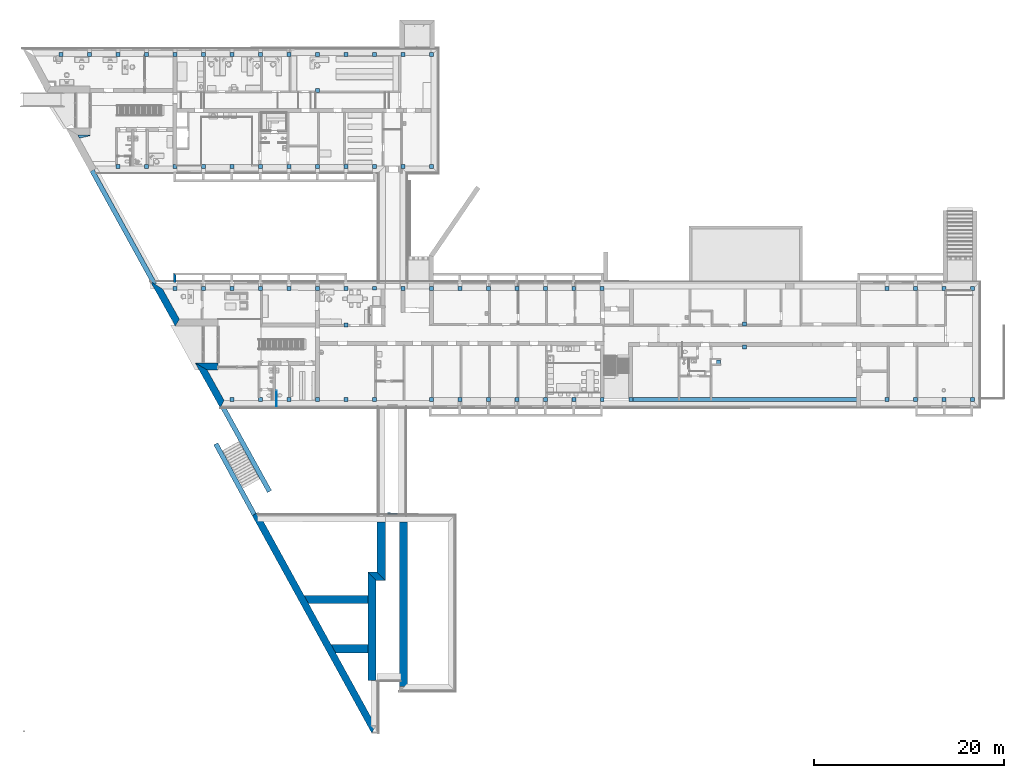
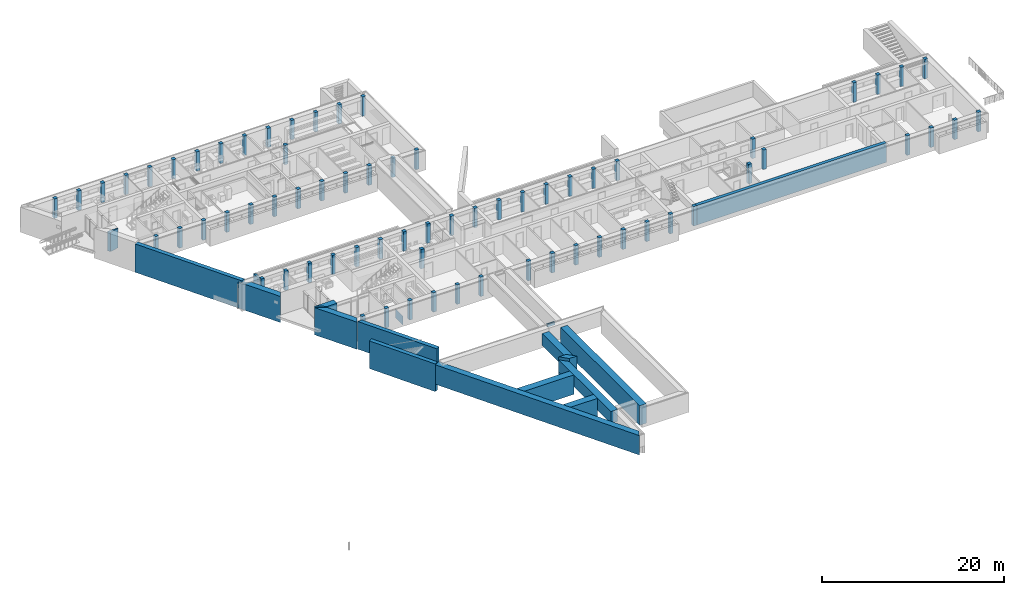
# One storey, part 1 of 127: 74 members, 13 walls.
"""IFC2X3 building model written with IfcOpenShell, lengths in millimetres."""

from ifc_helpers import new_model, entity, si_unit, converted_unit, derived_unit, money_unit, direction, frame, origin_with_axes, origin_2d_with_axis, place, context, subcontext, project, spatial, polyline, rectangle, outline, extrude, material, layer, layer_set, layer_usage, type_object, element, save


model = new_model("IFC2X3")

# Units and contexts
model_context = context("Model", 3, precision=1e-05, world=origin_with_axes(), true_north=direction((0.0, 1.0)))
body_context = subcontext(model_context, "Body", "Model", "MODEL_VIEW")
ifc_project = project(units=[si_unit("LENGTHUNIT", "METRE", prefix="MILLI"), si_unit("AREAUNIT", "SQUARE_METRE"), si_unit("VOLUMEUNIT", "CUBIC_METRE"), converted_unit("PLANEANGLEUNIT", "DEGREE", entity("IfcPlaneAngleMeasure", 0.0174532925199), si_unit("PLANEANGLEUNIT", "RADIAN"), dimensions=[0, 0, 0, 0, 0, 0, 0]), si_unit("SOLIDANGLEUNIT", "STERADIAN"), money_unit("EUR"), converted_unit("TIMEUNIT", "Year", entity("IfcTimeMeasure", 31556926.0), si_unit("TIMEUNIT", "SECOND"), dimensions=[0, 0, 1, 0, 0, 0, 0]), si_unit("MASSUNIT", "GRAM", prefix="KILO"), si_unit("THERMODYNAMICTEMPERATUREUNIT", "DEGREE_CELSIUS"), si_unit("LUMINOUSINTENSITYUNIT", "LUMEN"), si_unit("ENERGYUNIT", "JOULE", prefix="MEGA"), derived_unit("THERMALCONDUCTANCEUNIT", [(si_unit("POWERUNIT", "WATT"), 1), (si_unit("LENGTHUNIT", "METRE"), -1), (si_unit("THERMODYNAMICTEMPERATUREUNIT", "KELVIN"), -1)]), derived_unit("SPECIFICHEATCAPACITYUNIT", [(si_unit("ENERGYUNIT", "JOULE"), 1), (si_unit("MASSUNIT", "GRAM", prefix="KILO"), -1), (si_unit("THERMODYNAMICTEMPERATUREUNIT", "KELVIN"), -1)]), derived_unit("MASSDENSITYUNIT", [(si_unit("MASSUNIT", "GRAM", prefix="KILO"), 1), (si_unit("VOLUMEUNIT", "CUBIC_METRE"), -1)])], contexts=[model_context])

# Site, building, storey
site_placement = place(None, origin_with_axes())
site = spatial("IfcSite", under=ifc_project, at=site_placement, Name="Site", CompositionType="ELEMENT")
building_placement = place(site_placement, origin_with_axes())
building = spatial("IfcBuilding", under=site, at=building_placement, Name="Building", CompositionType="ELEMENT")
storey_placement = place(building_placement, origin_with_axes())
storey = spatial("IfcBuildingStorey", under=building, at=storey_placement, Name="1 KORRUS", CompositionType="ELEMENT", Elevation=0.0)

# Members
ifc_material_1 = material(Name="Kivi - Ol.Olev Konstruktsioon")
member_type_1 = type_object("IfcMemberType", Name="SW - 020", PredefinedType="NOTDEFINED")
member_1_placement = place(storey_placement, frame((5715.01134095, 62850.2567601, 0.0), z_axis=(0.0, 0.0, 1.0), x_axis=(0.45620226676, -0.889876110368, 0.0)))
element("IfcMember", 1, at=member_1_placement, inside=storey, type_object=member_type_1, material=ifc_material_1, Name="Kivi - Ol.Olev Konstruktsioon", context=body_context, shape_type="SweptSolid", body=[
    extrude(outline(polyline([(0.0, 0.0), (399.238557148, -4.54747350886e-10), (671.77523464, 1106.1477904), (588.163772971, 1149.01189013), (0.0, 0.0)])), origin_with_axes(), (0.0, 0.0, 1.0), 2600.0),
])
member_type_2 = type_object("IfcMemberType", Name="ol.ol postid", PredefinedType="NOTDEFINED")
for number, where, z_axis, x_axis in (
    (2, (24944.3293372, 46682.325893, 0.0), (0.0, 0.0, 1.0), (1.0, 0.0, 0.0)),
    (3, (99947.3527847, 46681.7424563, 0.0), (0.0, 0.0, 1.0), (1.0, 0.0, 0.0)),
    (4, (57944.3292711, 46681.4699647, 0.0), (0.0, 0.0, 1.0), (1.0, 0.0, 0.0)),
    (5, (60944.3292711, 46681.4699647, 0.0), (0.0, 0.0, 1.0), (1.0, 0.0, 0.0)),
    (6, (54944.3292711, 46681.4699647, 0.0), (0.0, 0.0, 1.0), (1.0, 0.0, 0.0)),
    (7, (51944.3292711, 46681.4699647, 0.0), (0.0, 0.0, 1.0), (1.0, 0.0, 0.0)),
    (8, (57945.1743177, 34971.6242698, 0.0), (0.0, 0.0, 1.0), (1.0, 0.0, 0.0)),
    (9, (54945.1743177, 34971.6242698, 0.0), (0.0, 0.0, 1.0), (1.0, 0.0, 0.0)),
    (10, (63947.3527847, 34971.6242698, 0.0), (0.0, 0.0, 1.0), (1.0, 0.0, 0.0)),
    (11, (90947.3527847, 34971.6242698, 0.0), (0.0, 0.0, 1.0), (1.0, 0.0, 0.0)),
    (12, (48945.1743177, 34971.6242698, 0.0), (0.0, 0.0, 1.0), (1.0, 0.0, 0.0)),
):
    element("IfcMember", number, at=place(storey_placement, frame(where, z_axis=z_axis, x_axis=x_axis)), inside=storey, type_object=member_type_2, material=ifc_material_1, Name="Kivi - Ol.Olev Konstruktsioon", context=body_context, shape_type="SweptSolid", body=[
        extrude(rectangle(XDim=420.0, YDim=420.0, at=origin_2d_with_axis()), origin_with_axes(), (0.0, 0.0, 1.0), 2600.0),
    ])
member_2_placement = place(storey_placement, frame((76157.3527847, 34971.6242698, 0.0), z_axis=(0.0, 0.0, 1.0), x_axis=(1.0, 0.0, 0.0)))
element("IfcMember", 13, at=member_2_placement, inside=storey, type_object=member_type_2, material=ifc_material_1, Name="Kivi - Ol.Olev Konstruktsioon", context=body_context, shape_type="SweptSolid", body=[
    extrude(rectangle(XDim=24000.0, YDim=420.0, at=origin_2d_with_axis()), origin_with_axes(), (0.0, 0.0, 1.0), 2600.0),
])
for number, where, z_axis, x_axis in (
    (14, (75947.3527847, 42916.0014634, 0.0), (0.0, 0.0, 1.0), (1.0, 0.0, 0.0)),
    (15, (42945.1743177, 34971.6242698, 0.0), (0.0, 0.0, 1.0), (1.0, 0.0, 0.0)),
    (16, (45945.1743177, 34971.6242698, 0.0), (0.0, 0.0, 1.0), (1.0, 0.0, 0.0)),
    (17, (96947.3527847, 46681.7424563, 0.0), (0.0, 0.0, 1.0), (1.0, 0.0, 0.0)),
    (18, (36944.3010178, 46699.9747517, 0.0), (0.0, 0.0, 1.0), (1.0, 0.0, 0.0)),
    (19, (60945.1743177, 34971.6242698, 0.0), (0.0, 0.0, 1.0), (1.0, 0.0, 0.0)),
    (20, (30943.8006358, 46690.3463291, 0.0), (0.0, 0.0, 1.0), (1.0, 0.0, 0.0)),
    (21, (93947.3527847, 34971.6242698, 0.0), (0.0, 0.0, 1.0), (1.0, 0.0, 0.0)),
    (22, (75947.3527847, 40514.0649257, 0.0), (0.0, 0.0, 1.0), (1.0, 0.0, 0.0)),
    (23, (27944.3293372, 46685.5347581, 0.0), (0.0, 0.0, 1.0), (1.0, 0.0, 0.0)),
    (24, (21944.3293372, 46682.325893, 0.0), (0.0, 0.0, 1.0), (1.0, 0.0, 0.0)),
    (25, (15944.3344057, 46682.9676628, 0.0), (0.0, 0.0, 1.0), (1.0, 0.0, 0.0)),
    (26, (18944.3293372, 46682.325893, 0.0), (0.0, 0.0, 1.0), (1.0, 0.0, 0.0)),
    (27, (42944.3292711, 46681.4699647, 0.0), (0.0, 0.0, 1.0), (1.0, 0.0, 0.0)),
    (28, (12944.6418932, 59525.1231357, 0.0), (0.0, 0.0, 1.0), (1.0, 0.0, 0.0)),
    (29, (9944.30400259, 59525.1231357, 0.0), (0.0, 0.0, 1.0), (1.0, 0.0, 0.0)),
    (30, (18944.3034197, 59526.6941374, 0.0), (0.0, 0.0, 1.0), (1.0, 0.0, 0.0)),
    (31, (24945.1743177, 34971.6242698, 0.0), (0.0, 0.0, 1.0), (1.0, 0.0, 0.0)),
    (32, (3950.5667174, 71297.439843, 0.0), (0.0, 0.0, 1.0), (1.0, 0.0, 0.0)),
    (33, (90947.3527847, 46681.7424563, 0.0), (0.0, 0.0, 1.0), (1.0, 0.0, 0.0)),
    (34, (33943.7929122, 42812.8754334, 0.0), (0.0, 0.0, 1.0), (1.0, 0.0, 0.0)),
    (35, (96947.3527847, 34971.6242698, 0.0), (0.0, 0.0, 1.0), (1.0, 0.0, 0.0)),
    (36, (33945.1743177, 34971.6242698, 0.0), (0.0, 0.0, 1.0), (1.0, 0.0, 0.0)),
    (37, (33943.7929122, 46695.1601266, 0.0), (0.0, 0.0, 1.0), (1.0, 0.0, 0.0)),
    (38, (30945.1743177, 34971.6242698, 0.0), (0.0, 0.0, 1.0), (1.0, 0.0, 0.0)),
    (39, (30950.1503027, 67524.0664165, 0.0), (0.0, 0.0, 1.0), (1.0, 0.0, 0.0)),
    (40, (99947.3527847, 34971.6242698, 0.0), (0.0, 0.0, 1.0), (1.0, 0.0, 0.0)),
    (41, (48944.3292711, 46681.4699647, 0.0), (0.0, 0.0, 1.0), (1.0, 0.0, 0.0)),
    (42, (45944.3292711, 46681.4699647, 0.0), (0.0, 0.0, 1.0), (1.0, 0.0, 0.0)),
    (43, (73187.5755855, 38941.7373943, 0.0), (0.0, 0.0, 1.0), (1.0, 0.0, 0.0)),
    (44, (93947.3527847, 46681.7424563, 0.0), (0.0, 0.0, 1.0), (1.0, 0.0, 0.0)),
    (45, (42944.3292711, 59529.3156565, 0.0), (0.0, 0.0, 1.0), (1.0, 0.0, 0.0)),
    (46, (51945.1743177, 34971.6242698, 0.0), (0.0, 0.0, 1.0), (1.0, 0.0, 0.0)),
    (47, (21945.1743177, 34971.6242698, 0.0), (0.0, 0.0, 1.0), (1.0, 0.0, 0.0)),
    (48, (42953.1732824, 71302.373319, 0.0), (0.0, 0.0, 1.0), (1.0, 0.0, 0.0)),
    (49, (39950.7614186, 71302.3733161, 0.0), (0.0, 0.0, 1.0), (1.0, 0.0, 0.0)),
    (50, (36949.9880696, 71302.3731882, 0.0), (0.0, 0.0, 1.0), (1.0, 0.0, 0.0)),
    (51, (33950.0692407, 71302.3731882, 0.0), (0.0, 0.0, 1.0), (1.0, 0.0, 0.0)),
    (52, (30950.1503027, 71302.3731882, 0.0), (0.0, 0.0, 1.0), (1.0, 0.0, 0.0)),
    (53, (27950.1478384, 71302.3731882, 0.0), (0.0, 0.0, 1.0), (1.0, 0.0, 0.0)),
    (54, (24951.646881, 71298.9448321, 0.0), (0.0, 0.0, 1.0), (1.0, 0.0, 0.0)),
    (55, (21950.5170575, 71298.2638514, 0.0), (0.0, 0.0, 1.0), (1.0, 0.0, 0.0)),
    (56, (18951.6522749, 71298.8316168, 0.0), (0.0, 0.0, 1.0), (1.0, 0.0, 0.0)),
    (57, (15951.8667269, 71298.3482713, 0.0), (0.0, 0.0, 1.0), (1.0, 0.0, 0.0)),
    (58, (9951.94827156, 71299.439721, 0.0), (0.0, 0.0, 1.0), (1.0, 0.0, 0.0)),
    (59, (6952.1108763, 71297.439843, 0.0), (0.0, 0.0, 1.0), (1.0, 0.0, 0.0)),
    (60, (27945.1743177, 34971.6242698, 0.0), (0.0, 0.0, 1.0), (1.0, 0.0, 0.0)),
    (61, (36944.3292711, 34971.6242698, 0.0), (0.0, 0.0, 1.0), (1.0, 0.0, 0.0)),
    (62, (15944.3038311, 59525.1231357, 0.0), (0.0, 0.0, 1.0), (1.0, 0.0, 0.0)),
    (63, (39944.3292711, 46662.325893, 0.0), (0.0, 0.0, 1.0), (1.0, 0.0, 0.0)),
    (64, (12951.7903616, 71296.7330816, 0.0), (0.0, 0.0, 1.0), (1.0, 0.0, 0.0)),
    (65, (39943.2475145, 59529.3156565, 0.0), (0.0, 0.0, 1.0), (1.0, 0.0, 0.0)),
    (66, (36944.3009517, 59529.3156565, 0.0), (0.0, 0.0, 1.0), (1.0, 0.0, 0.0)),
    (67, (33944.301363, 59528.9515077, 0.0), (0.0, 0.0, 1.0), (1.0, 0.0, 0.0)),
    (68, (30944.3017744, 59528.468799, 0.0), (0.0, 0.0, 1.0), (1.0, 0.0, 0.0)),
    (69, (27944.3021857, 59528.1046502, 0.0), (0.0, 0.0, 1.0), (1.0, 0.0, 0.0)),
    (70, (24944.302597, 59527.6812213, 0.0), (0.0, 0.0, 1.0), (1.0, 0.0, 0.0)),
    (71, (21944.3030084, 59528.2651392, 0.0), (0.0, 0.0, 1.0), (1.0, 0.0, 0.0)),
):
    element("IfcMember", number, at=place(storey_placement, frame(where, z_axis=z_axis, x_axis=x_axis)), inside=storey, type_object=member_type_2, material=ifc_material_1, Name="Kivi - Ol.Olev Konstruktsioon", context=body_context, shape_type="SweptSolid", body=[
        extrude(rectangle(XDim=420.0, YDim=420.0, at=origin_2d_with_axis()), origin_with_axes(), (0.0, 0.0, 1.0), 2600.0),
    ])
member_type_3 = type_object("IfcMemberType", Name="VS1", PredefinedType="NOTDEFINED")
member_3_placement = place(storey_placement, frame((20033.5222605, 30197.8708194, -1000.0), z_axis=(0.0, 0.0, 1.0), x_axis=(0.478355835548, -0.878166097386, 0.0)))
element("IfcMember", 72, at=member_3_placement, inside=storey, type_object=member_type_3, material=ifc_material_1, Name="Ol.olve tugimüür 500", context=body_context, shape_type="SweptSolid", body=[
    extrude(outline(polyline([(0.0, 0.0), (8470.73635512, -4.54747350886e-10), (8470.73635512, 500.0), (0.0, 500.0), (0.0, 0.0)])), origin_with_axes(), (0.0, 0.0, 1.0), 3702.64789872),
])
member_4_placement = place(storey_placement, frame((20672.9822092, 34257.0926367, -1000.0), z_axis=(0.0, 0.0, 1.0), x_axis=(0.483634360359, -0.875270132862, 0.0)))
element("IfcMember", 73, at=member_4_placement, inside=storey, type_object=member_type_3, material=ifc_material_1, Name="Ol.olve tugimüür 500", context=body_context, shape_type="SweptSolid", body=[
    extrude(outline(polyline([(194.218445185, 0.0), (10363.3436414, -4.54747350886e-10), (10363.3436414, 500.0), (470.451203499, 500.0), (194.218445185, 0.0)])), origin_with_axes(), (0.0, 0.0, 1.0), 3702.64789872),
])
member_5_placement = place(storey_placement, frame((6998.40276262, 58984.8998575, -1000.0), z_axis=(0.0, 0.0, 1.0), x_axis=(0.482129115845, -0.87610017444, 0.0)))
element("IfcMember", 74, at=member_5_placement, inside=storey, type_object=member_type_3, material=ifc_material_1, Name="Ol.olve tugimüür 500", context=body_context, shape_type="SweptSolid", body=[
    extrude(outline(polyline([(0.0, 0.0), (13672.5863333, 0.0), (13672.5863333, 500.0), (9.09494701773e-10, 500.0), (0.0, 0.0)])), origin_with_axes(), (0.0, 0.0, 1.0), 3797.98141007),
])

# Walls
ifc_layer_1 = layer(ifc_material_1, 860.0, ventilated="UNKNOWN")
ifc_layer_set_1 = layer_set([ifc_layer_1], Name="VUND")
ifc_layer_usage_1 = layer_usage(ifc_layer_set_1, "AXIS2", "POSITIVE", -860.0)
wall_type_1 = type_object("IfcWallType", Name="P-1", PredefinedType="NOTDEFINED")
wall_1_placement = place(storey_placement, frame((38098.3753318, 15945.4077604, 0.0), z_axis=(0.0, 0.0, 1.0), x_axis=(-0.999998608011, 0.00166852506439, 0.0)))
element("IfcWallStandardCase", 75, at=wall_1_placement, inside=storey, type_object=wall_type_1, material=ifc_layer_usage_1, Name="VUND", context=body_context, shape_type="SweptSolid", body=[
    extrude(outline(polyline([(861.436130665, -860.0), (1814.92948083, -860.0), (953.493350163, 0.0), (0.0, 0.0), (861.436130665, -860.0)])), origin_with_axes(), (0.0, 0.0, 1.0), 3000.0),
])
ifc_layer_usage_2 = layer_usage(ifc_layer_set_1, "AXIS2", "POSITIVE", 0.0)
wall_2_placement = place(storey_placement, frame((29177.7008013, 13498.4809975, 0.0), z_axis=(0.0, 0.0, 1.0), x_axis=(0.999998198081, -0.00189837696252, 0.0)))
element("IfcWallStandardCase", 76, at=wall_2_placement, inside=storey, type_object=wall_type_1, material=ifc_layer_usage_2, Name="VUND", context=body_context, shape_type="SweptSolid", body=[
    extrude(outline(polyline([(845.37771888, 0.0), (7107.19531418, 0.0), (7105.56270705, 860.000000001), (370.362522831, 860.000000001), (845.37771888, 0.0)])), origin_with_axes(), (0.0, 0.0, 1.0), 2600.0),
])
ifc_layer_usage_3 = layer_usage(ifc_layer_set_1, "AXIS2", "POSITIVE", 0.0)
wall_3_placement = place(storey_placement, frame((32034.2403487, 8303.52879595, 0.0), z_axis=(0.0, 0.0, 1.0), x_axis=(1.0, 0.0, 0.0)))
element("IfcWallStandardCase", 77, at=wall_3_placement, inside=storey, type_object=wall_type_1, material=ifc_layer_usage_3, Name="VUND", context=body_context, shape_type="SweptSolid", body=[
    extrude(outline(polyline([(844.49374186, 0.0), (4250.64296023, 0.0), (4250.64296023, 860.0), (371.607001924, 860.0), (844.49374186, 0.0)])), origin_with_axes(), (0.0, 0.0, 1.0), 2600.0),
])
ifc_layer_usage_4 = layer_usage(ifc_layer_set_1, "AXIS2", "POSITIVE", 0.0)
wall_4_placement = place(storey_placement, frame((39573.4187351, 22071.873873, 0.0), z_axis=(0.0, 0.0, 1.0), x_axis=(0.0, -1.0, 0.0)))
element("IfcWallStandardCase", 78, at=wall_4_placement, inside=storey, type_object=wall_type_1, material=ifc_layer_usage_4, Name="VUND", context=body_context, shape_type="SweptSolid", body=[
    extrude(outline(polyline([(0.0, 0.0), (17324.6171005, 0.0), (17324.6171005, 860.0), (0.0, 860.0), (0.0, 0.0)])), origin_with_axes(), (0.0, 0.0, 1.0), 2600.0),
])
ifc_layer_usage_5 = layer_usage(ifc_layer_set_1, "AXIS2", "POSITIVE", -860.0)
wall_5_placement = place(storey_placement, frame((38098.3753318, 22076.7137907, 1000.0), z_axis=(0.0, 0.0, 1.0), x_axis=(0.0, -1.0, 0.0)))
element("IfcWallStandardCase", 79, at=wall_5_placement, inside=storey, type_object=wall_type_1, material=ifc_layer_usage_5, Name="VUND", context=body_context, shape_type="SweptSolid", body=[
    extrude(outline(polyline([(0.0, -860.0), (5269.86989961, -860.0), (6131.30603028, 0.0), (0.0, 0.0), (0.0, -860.0)])), origin_with_axes(), (0.0, 0.0, 1.0), 1600.0),
])
ifc_layer_usage_6 = layer_usage(ifc_layer_set_1, "AXIS2", "POSITIVE", 0.0)
wall_6_placement = place(storey_placement, frame((37144.8833089, 5377.25677248, 1000.0), z_axis=(0.0, 0.0, 1.0), x_axis=(0.0, 1.0, 0.0)))
element("IfcWallStandardCase", 80, at=wall_6_placement, inside=storey, type_object=wall_type_1, material=ifc_layer_usage_6, Name="VUND", context=body_context, shape_type="SweptSolid", body=[
    extrude(outline(polyline([(0.0, 0.0), (10569.7419154, 0.0), (11431.1780461, 860.0), (0.0, 860.0), (0.0, 0.0)])), origin_with_axes(), (0.0, 0.0, 1.0), 1600.0),
])
ifc_layer_2 = layer(ifc_material_1, 740.0, ventilated="UNKNOWN")
ifc_layer_set_2 = layer_set([ifc_layer_2], Name="VS1")
ifc_layer_usage_7 = layer_usage(ifc_layer_set_2, "AXIS2", "POSITIVE", -740.0)
wall_type_2 = type_object("IfcWallType", Name="VS-1", PredefinedType="NOTDEFINED")
wall_7_placement = place(storey_placement, frame((15984.4543066, 42702.9673494, -1000.0), z_axis=(0.0, 0.0, 1.0), x_axis=(-0.486160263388, 0.873869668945, 0.0)))
element("IfcWallStandardCase", 81, at=wall_7_placement, inside=storey, type_object=wall_type_2, material=ifc_layer_usage_7, Name="VS1", context=body_context, shape_type="SweptSolid", body=[
    extrude(outline(polyline([(435.137135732, -740.0), (4074.12855416, -740.0), (5401.64919236, 0.0), (0.0, -4.54747350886e-10), (435.137135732, -740.0)])), origin_with_axes(), (0.0, 0.0, 1.0), 3485.96222915),
])
ifc_layer_usage_8 = layer_usage(ifc_layer_set_2, "AXIS2", "POSITIVE", -740.0)
wall_8_placement = place(storey_placement, frame((20637.3874206, 34257.0902129, -1039.65921435), z_axis=(0.0, 0.0, 1.0), x_axis=(-0.486840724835, 0.873490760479, 0.0)))
element("IfcWallStandardCase", 82, at=wall_8_placement, inside=storey, type_object=wall_type_2, material=ifc_layer_usage_8, Name="VS1", context=body_context, shape_type="SweptSolid", body=[
    extrude(outline(polyline([(308.843153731, -740.0), (3985.57697092, -740.0), (5243.36854673, -4.54747350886e-10), (-194.614020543, 0.0), (308.843153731, -740.0)])), origin_with_axes(), (0.0, 0.0, 1.0), 3639.65921435),
])
ifc_layer_usage_9 = layer_usage(ifc_layer_set_2, "AXIS2", "POSITIVE", -740.0)
wall_9_placement = place(storey_placement, frame((20500.5829122, 38100.1818366, -39.6592143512), z_axis=(0.0, 0.0, 1.0), x_axis=(-0.999999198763, -0.00126588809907, 0.0)))
element("IfcWallStandardCase", 83, at=wall_9_placement, inside=storey, type_object=wall_type_2, material=ifc_layer_usage_9, Name="VS1", context=body_context, shape_type="SweptSolid", body=[
    extrude(outline(polyline([(0.0, -740.000000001), (2414.94601327, -740.000000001), (1157.15443746, -9.09494701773e-10), (0.0, 0.0), (0.0, -740.000000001)])), origin_with_axes(), (0.0, 0.0, 1.0), 2835.08705514),
])
ifc_layer_usage_10 = layer_usage(ifc_layer_set_2, "AXIS2", "POSITIVE", 0.0)
wall_10_placement = place(storey_placement, frame((24085.0500409, 22760.0637066, 0.0), z_axis=(0.0, 0.0, 1.0), x_axis=(0.481830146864, -0.876264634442, 0.0)))
element("IfcWallStandardCase", 84, at=wall_10_placement, inside=storey, type_object=wall_type_2, material=ifc_layer_usage_10, Name="VS1", context=body_context, shape_type="SweptSolid", body=[
    extrude(outline(polyline([(0.0, 0.0), (26165.6842072, 0.0), (25659.6205435, 740.0), (0.0, 740.0), (0.0, 0.0)])), origin_with_axes(), (0.0, 0.0, 1.0), 2600.0),
])
ifc_layer_3 = layer(ifc_material_1, 250.0, ventilated="UNKNOWN")
ifc_layer_set_3 = layer_set([ifc_layer_3], Name="Ol.olve tugimüür 250")
ifc_layer_usage_11 = layer_usage(ifc_layer_set_3, "AXIS2", "NEGATIVE", 125.0)
wall_type_3 = type_object("IfcWallType", Name="SW - 027", PredefinedType="NOTDEFINED")
wall_11_placement = place(storey_placement, frame((15944.533023, 47291.5021094, 0.0), z_axis=(0.0, 0.0, 1.0), x_axis=(0.000248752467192, 0.999999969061, 0.0)))
element("IfcWallStandardCase", 85, at=wall_11_placement, inside=storey, type_object=wall_type_3, material=ifc_layer_usage_11, Name="Ol.olve tugimüür 250", context=body_context, shape_type="SweptSolid", body=[
    extrude(outline(polyline([(0.0, -125.0), (781.159317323, -125.0), (1031.15931732, 125.0), (9.09494701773e-10, 125.0), (0.0, -125.0)])), origin_with_axes(), (0.0, 0.0, 1.0), 2250.0),
])
ifc_material_2 = material(Name="Kivi -  Uus Konstruktsioon")
ifc_layer_4 = layer(ifc_material_2, 150.0, ventilated="UNKNOWN")
ifc_layer_set_4 = layer_set([ifc_layer_4], Name="uus kinni ehitav sein 150")
ifc_layer_usage_12 = layer_usage(ifc_layer_set_4, "AXIS2", "POSITIVE", -150.0)
wall_type_4 = type_object("IfcWallType", Name="P-4", PredefinedType="NOTDEFINED")
wall_12_placement = place(storey_placement, frame((39352.8565813, 22882.8647869, 2557.87781903), z_axis=(0.0, 0.0, 1.0), x_axis=(-0.999996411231, 0.00267909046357, 0.0)))
element("IfcWallStandardCase", 86, at=wall_12_placement, inside=storey, type_object=wall_type_4, material=ifc_layer_usage_12, Name="sahti sein", context=body_context, shape_type="SweptSolid", body=[
    extrude(outline(polyline([(0.0, -150.0), (1000.00358878, -150.000000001), (1000.00358878, -9.09494701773e-10), (0.0, 0.0), (0.0, -150.0)])), origin_with_axes(), (0.0, 0.0, 1.0), 375.0),
])
ifc_material_3 = material(Name="Kipsplaat")
ifc_layer_5 = layer(ifc_material_3, 13.0, ventilated="UNKNOWN")
ifc_layer_set_5 = layer_set([ifc_layer_5], Name="Kipsplaat 13")
ifc_layer_usage_13 = layer_usage(ifc_layer_set_5, "AXIS2", "NEGATIVE", 0.0)
wall_type_5 = type_object("IfcWallType", Name="loputuskasti raam", PredefinedType="NOTDEFINED")
wall_13_placement = place(storey_placement, frame((26656.5592221, 35914.8641392, 0.0), z_axis=(0.0, 0.0, 1.0), x_axis=(0.0, -1.0, 0.0)))
element("IfcWallStandardCase", 87, at=wall_13_placement, inside=storey, type_object=wall_type_5, material=ifc_layer_usage_13, Name="Kipsplaat", context=body_context, shape_type="SweptSolid", body=[
    extrude(outline(polyline([(0.0, -13.0), (1657.39639114, -13.0), (1657.39639114, 0.0), (-12.9999999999, 0.0), (0.0, -13.0)])), origin_with_axes(), (0.0, 0.0, 1.0), 1200.0),
])

save(model, "model.ifc")
